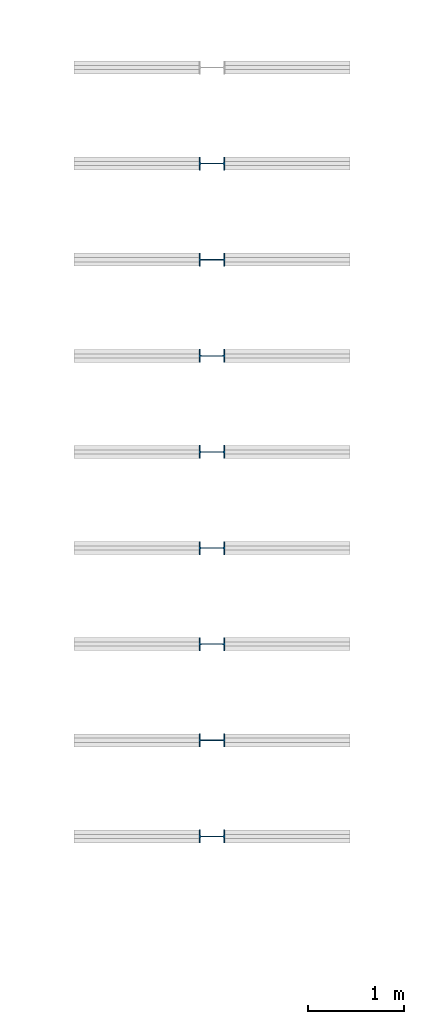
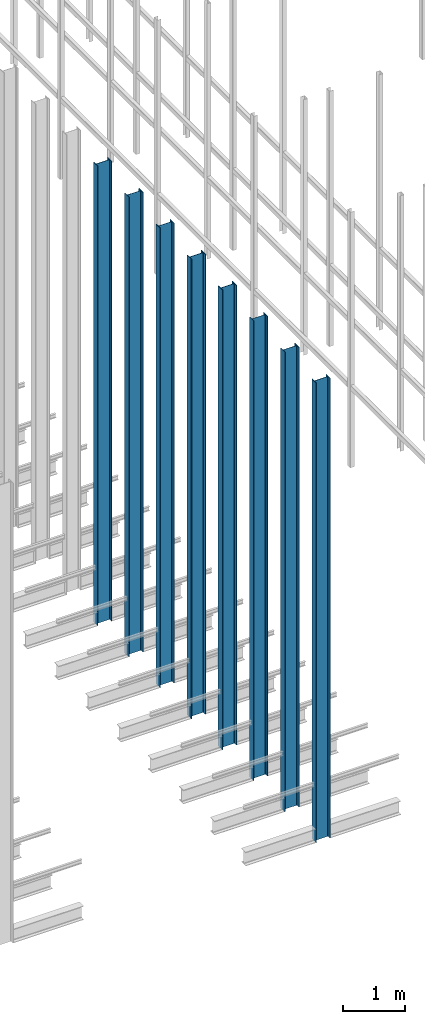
# One storey, part 47 of 302: 8 columns.
"""IFC2X3 building model written with IfcOpenShell, lengths in metres."""

from ifc_helpers import new_model, entity, si_unit, converted_unit, derived_unit, direction, frame, frame_2d, origin, place, context, subcontext, project, spatial, polyline, circle_curve, parameter, trimmed, segment, composite_curve, outline, extrude, source, transform, mapped, material, type_object, type_shapes, element, save


model = new_model("IFC2X3")

# Units and contexts
model_context = context("Model", 3, precision=1e-05, world=origin(), true_north=direction((6.12303176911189e-17, 1.0)))
body_context = subcontext(model_context, "Body", "Model", "MODEL_VIEW")
ifc_project = project(units=[si_unit("LENGTHUNIT", "METRE"), si_unit("AREAUNIT", "SQUARE_METRE"), si_unit("VOLUMEUNIT", "CUBIC_METRE"), converted_unit("PLANEANGLEUNIT", "DEGREE", entity("IfcRatioMeasure", 0.0174532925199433), si_unit("PLANEANGLEUNIT", "RADIAN"), dimensions=[0, 0, 0, 0, 0, 0, 0]), si_unit("MASSUNIT", "GRAM", prefix="KILO"), derived_unit("MASSDENSITYUNIT", [(si_unit("MASSUNIT", "GRAM", prefix="KILO"), 1), (si_unit("LENGTHUNIT", "METRE"), -3)]), derived_unit("MOMENTOFINERTIAUNIT", [(si_unit("LENGTHUNIT", "METRE"), 4)]), si_unit("TIMEUNIT", "SECOND"), si_unit("FREQUENCYUNIT", "HERTZ"), si_unit("THERMODYNAMICTEMPERATUREUNIT", "DEGREE_CELSIUS"), derived_unit("THERMALTRANSMITTANCEUNIT", [(si_unit("MASSUNIT", "GRAM", prefix="KILO"), 1), (si_unit("THERMODYNAMICTEMPERATUREUNIT", "KELVIN"), -1), (si_unit("TIMEUNIT", "SECOND"), -3)]), derived_unit("VOLUMETRICFLOWRATEUNIT", [(si_unit("LENGTHUNIT", "METRE"), 3), (si_unit("TIMEUNIT", "SECOND"), -1)]), si_unit("ELECTRICCURRENTUNIT", "AMPERE"), si_unit("ELECTRICVOLTAGEUNIT", "VOLT"), si_unit("POWERUNIT", "WATT"), si_unit("FORCEUNIT", "NEWTON", prefix="KILO"), si_unit("ILLUMINANCEUNIT", "LUX"), si_unit("LUMINOUSFLUXUNIT", "LUMEN"), si_unit("LUMINOUSINTENSITYUNIT", "CANDELA"), derived_unit("USERDEFINED", [(si_unit("MASSUNIT", "GRAM", prefix="KILO"), -1), (si_unit("LENGTHUNIT", "METRE"), -2), (si_unit("TIMEUNIT", "SECOND"), 3), (si_unit("LUMINOUSFLUXUNIT", "LUMEN"), 1)]), derived_unit("LINEARVELOCITYUNIT", [(si_unit("LENGTHUNIT", "METRE"), 1), (si_unit("TIMEUNIT", "SECOND"), -1)]), si_unit("PRESSUREUNIT", "PASCAL"), derived_unit("USERDEFINED", [(si_unit("LENGTHUNIT", "METRE"), -2), (si_unit("MASSUNIT", "GRAM", prefix="KILO"), 1), (si_unit("TIMEUNIT", "SECOND"), -2)]), derived_unit("LINEARFORCEUNIT", [(si_unit("MASSUNIT", "GRAM", prefix="KILO"), 1), (si_unit("LENGTHUNIT", "METRE"), 1), (si_unit("TIMEUNIT", "SECOND"), -2), (si_unit("LENGTHUNIT", "METRE"), -1)]), derived_unit("PLANARFORCEUNIT", [(si_unit("MASSUNIT", "GRAM", prefix="KILO"), 1), (si_unit("LENGTHUNIT", "METRE"), 1), (si_unit("TIMEUNIT", "SECOND"), -2), (si_unit("LENGTHUNIT", "METRE"), -2)])], contexts=[model_context])

# Site, building, storey
site_placement = place(None, origin())
site = spatial("IfcSite", under=ifc_project, at=site_placement, Name="Default", CompositionType="ELEMENT")
building_placement = place(site_placement, origin())
building = spatial("IfcBuilding", under=site, at=building_placement, CompositionType="ELEMENT")
storey_placement = place(building_placement, frame((0.0, 0.0, -1.3)))
storey = spatial("IfcBuildingStorey", under=building, at=storey_placement, Name="00_EG", CompositionType="ELEMENT", Elevation=-1.3)

# Columns
ifc_material = material(Name="Metall - Baustahl S235")
column_type = type_object("IfcColumnType", Name="IPE Stütze:IPE 270", PredefinedType="COLUMN", material=ifc_material)
shared_shape = source(origin(), body_context, "Body", "SweptSolid", [
    extrude(outline(composite_curve([segment(polyline([(0.1248, -0.0675), (0.135, -0.0675)]), True, "CONTINUOUS"), segment(polyline([(0.135, -0.0675), (0.135, 0.0675)]), True, "CONTINUOUS"), segment(polyline([(0.135, 0.0675), (0.1248, 0.0675)]), True, "CONTINUOUS"), segment(polyline([(0.1248, 0.0675), (0.1248, 0.0183)]), True, "CONTINUOUS"), segment(trimmed(circle_curve(frame_2d((0.1098, 0.0183), x_axis=(1.0, 0.0)), 0.015), [parameter(270.0)], [parameter(0.0)], True, "PARAMETER"), False, "CONTINUOUS"), segment(polyline([(0.1098, 0.0033), (-0.1098, 0.0033)]), True, "CONTINUOUS"), segment(trimmed(circle_curve(frame_2d((-0.1098, 0.0183), x_axis=(0.0, -1.0)), 0.015), [parameter(270.0)], [parameter(0.0)], True, "PARAMETER"), False, "CONTINUOUS"), segment(polyline([(-0.1248, 0.0183), (-0.1248, 0.0675)]), True, "CONTINUOUS"), segment(polyline([(-0.1248, 0.0675), (-0.135, 0.0675)]), True, "CONTINUOUS"), segment(polyline([(-0.135, 0.0675), (-0.135, -0.0675)]), True, "CONTINUOUS"), segment(polyline([(-0.135, -0.0675), (-0.1248, -0.0675)]), True, "CONTINUOUS"), segment(polyline([(-0.1248, -0.0675), (-0.1248, -0.0183)]), True, "CONTINUOUS"), segment(trimmed(circle_curve(frame_2d((-0.1098, -0.0183), x_axis=(-1.0, 0.0)), 0.015), [parameter(269.999999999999)], [parameter(0.0)], True, "PARAMETER"), False, "CONTINUOUS"), segment(polyline([(-0.1098, -0.0033), (0.1098, -0.0033)]), True, "CONTINUOUS"), segment(trimmed(circle_curve(frame_2d((0.1098, -0.0183), x_axis=(0.0, 1.0)), 0.015), [parameter(270.0)], [parameter(0.0)], True, "PARAMETER"), False, "CONTINUOUS"), segment(polyline([(0.1248, -0.0183), (0.1248, -0.0675)]), True, "CONTINUOUS")], self_intersect=False)), frame((0.0, 0.0, -0.0300000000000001), z_axis=(0.0, 0.0, 1.0), x_axis=(0.0, -1.0, 0.0)), (0.0, 0.0, 1.0), 9.0),
])
type_shapes(column_type, [shared_shape])
for number, where, z_axis, x_axis in (
    (1, (-164.775111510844, 31.015588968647, 1.3), (0.0, 0.0, 1.0), (0.0, 1.0, 0.0)),
    (2, (-164.775111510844, 30.015588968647, 1.3), (0.0, 0.0, 1.0), (0.0, 1.0, 0.0)),
    (3, (-164.775111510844, 29.015588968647, 1.3), (0.0, 0.0, 1.0), (0.0, 1.0, 0.0)),
    (4, (-164.775111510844, 28.015588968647, 1.3), (0.0, 0.0, 1.0), (0.0, 1.0, 0.0)),
    (5, (-164.775111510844, 27.015588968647, 1.3), (0.0, 0.0, 1.0), (0.0, 1.0, 0.0)),
    (6, (-164.775111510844, 26.015588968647, 1.3), (0.0, 0.0, 1.0), (0.0, 1.0, 0.0)),
    (7, (-164.775111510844, 25.015588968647, 1.3), (0.0, 0.0, 1.0), (0.0, 1.0, 0.0)),
    (8, (-164.775111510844, 24.015588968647, 1.3), (0.0, 0.0, 1.0), (0.0, 1.0, 0.0)),
):
    element("IfcColumn", number, at=place(storey_placement, frame(where, z_axis=z_axis, x_axis=x_axis)), inside=storey, type_object=column_type, material=ifc_material, Name="IPE Stütze:IPE 270", ObjectType="IPE Stütze:IPE 270", context=body_context, shape_type="MappedRepresentation", body=[
        mapped(shared_shape, transform((0.0, 0.0, 0.0), scale=1.0)),
    ])

save(model, "model.ifc")
